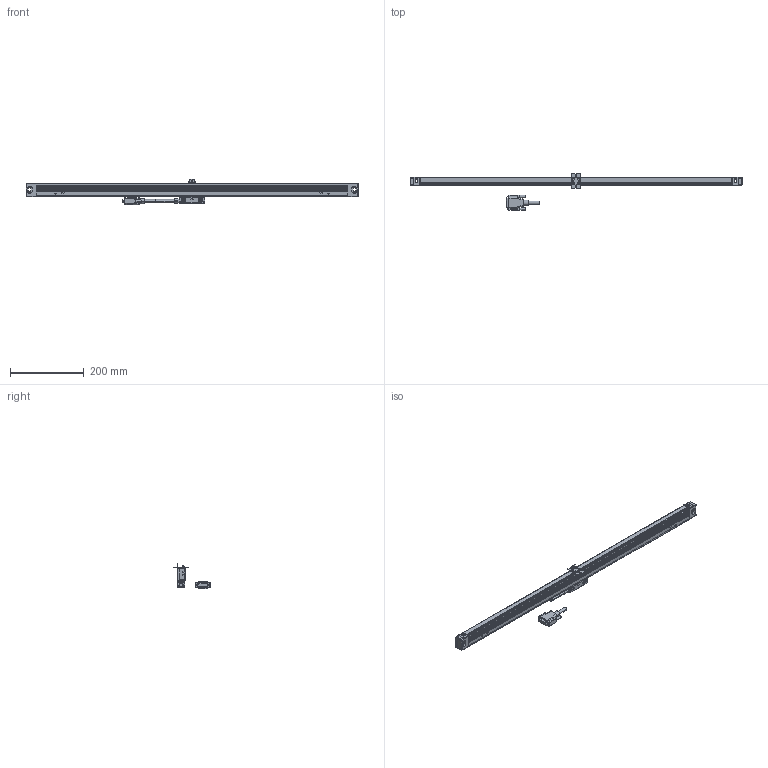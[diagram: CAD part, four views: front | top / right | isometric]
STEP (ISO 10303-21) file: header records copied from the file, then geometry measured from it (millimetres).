
FILE_DESCRIPTION(('Creo Elements/Direct Modeling STEP Export'),'2;1');
FILE_NAME('AT715-700_営業送付.stp','2018-12-20T15:26:07',(''),(''),'Creo Elements/Direct Modeling STEP processor for AP214 (Solid Model)','Creo Elements/Direct Modeling 18.1B 29-Sep-2012 (C) Parametric Technology GmbH','');
FILE_SCHEMA(('AUTOMOTIVE_DESIGN { 1 0 10303 214 1 1 1 1 }'));
Length unit declared in the file: millimetre
Products named in the file (6): DetectorHead; Scale_700_3; Scale_700_2; Scale_700_1; Connector; AT715-700
Assembly tree (5 placements, depth 2):
  AT715-700
    Connector
    Scale_700_1
    Scale_700_2
    Scale_700_3
    DetectorHead
Bounding box: 898 x 99 x 68.35 mm (x, y, z)
Volume: 1949711 mm3; surface area: 416451.3 mm2
Topology: 5 solids, 10 shells, 1425 faces, 3729 edges, 2357 vertices
Faces by surface type: plane 891, cylinder 424, cone 44, extrusion 32, torus 18, sphere 12, bspline 4
Entity records: 43367 total; most frequent: CARTESIAN_POINT 8754, ORIENTED_EDGE 7434, DIRECTION 6631, EDGE_CURVE 3717, VECTOR 2411, LINE 2379, VERTEX_POINT 2357, AXIS2_PLACEMENT_3D 2110
